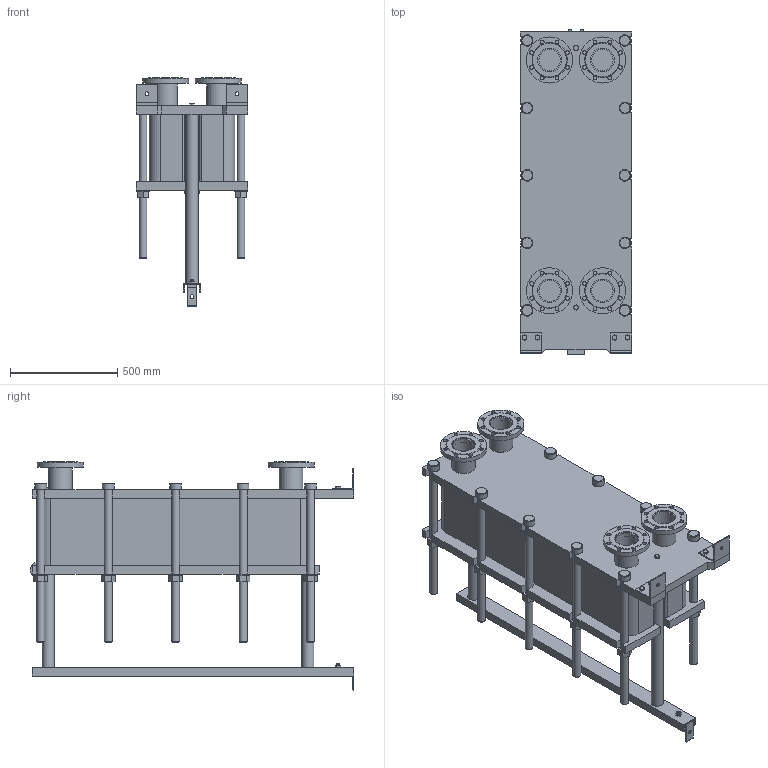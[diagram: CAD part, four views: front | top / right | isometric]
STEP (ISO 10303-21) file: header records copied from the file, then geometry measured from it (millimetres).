
FILE_DESCRIPTION(/* description */ (''),/* implementation_level */ '2;1');
FILE_NAME(/* name */ 'C:\Users\zhuro\Desktop\ENCO\TO\ЭН-04\ЭН-0,5-04-91-1.stp',/* time_stamp */ '2022-06-06T10:52:57+03:00',/* author */ ('zhuro'),/* organization */ (''),/* preprocessor_version */ 'ST-DEVELOPER v18.1',/* originating_system */ 'Autodesk Inventor 2022',/* authorisation */ '');
FILE_SCHEMA (('AUTOMOTIVE_DESIGN { 1 0 10303 214 3 1 1 }'));
Length unit declared in the file: millimetre
Products named in the file (1): ЭН-0,5-04-91-1
Bounding box: 520 x 1510 x 1065.5 mm (x, y, z)
Volume: 227619782.1 mm3; surface area: 8157351.1 mm2
Topology: 45 solids, 45 shells, 668 faces, 1611 edges, 1048 vertices
Faces by surface type: plane 457, cylinder 166, cone 39, torus 6
Full cylindrical faces by diameter (mm): 8 x4, 10 x2, 16 x8, 18 x35, 36 x25, 40 x2, 42 x1, 45 x4, 54 x10, 57 x2, 60 x10, 68 x2, 100 x4, 110 x8, 215 x4
Entity records: 23607 total; most frequent: CARTESIAN_POINT 7348, DIRECTION 3371, ORIENTED_EDGE 3142, EDGE_CURVE 1571, AXIS2_PLACEMENT_3D 1199, VERTEX_POINT 1044, LINE 973, VECTOR 973
